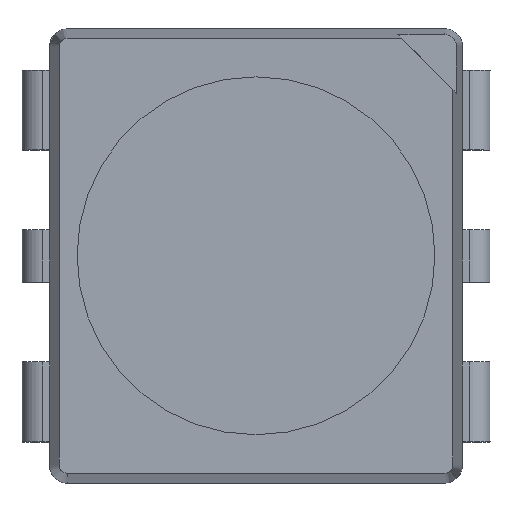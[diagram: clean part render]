
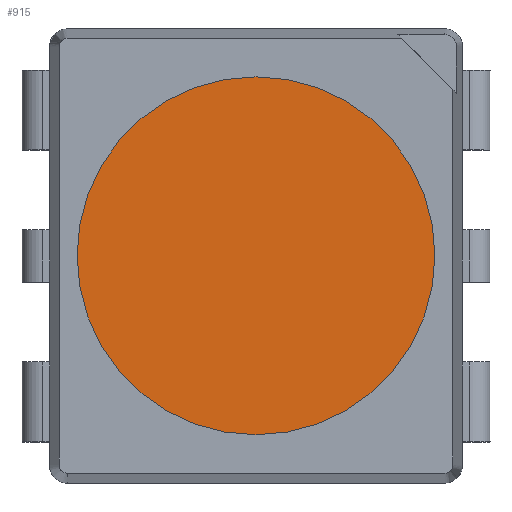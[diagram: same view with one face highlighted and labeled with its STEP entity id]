
A CAD part, top view. The second image highlights one B-rep face of the part: STEP entity #915.
In plain terms, the highlighted planar face has unit normal (0, 0, 1).
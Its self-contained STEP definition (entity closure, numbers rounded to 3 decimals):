
#124 = DIRECTION ( 'NONE',  ( 1., 0., 0. ) ) ;
#268 = DIRECTION ( 'NONE',  ( 1., 0., 0. ) ) ;
#439 = FACE_OUTER_BOUND ( 'NONE', #5419, .T. ) ;
#446 = DIRECTION ( 'NONE',  ( 0., 0., 1. ) ) ;
#490 = PLANE ( 'NONE',  #3310 ) ;
#527 = CARTESIAN_POINT ( 'NONE',  ( 0., 0., 0.8 ) ) ;
#659 = EDGE_CURVE ( 'NONE', #5362, #1012, #2474, .T. ) ;
#708 = CARTESIAN_POINT ( 'NONE',  ( 0., 0., 0.8 ) ) ;
#810 = CARTESIAN_POINT ( 'NONE',  ( -1.3, 0., 0.8 ) ) ;
#884 = CARTESIAN_POINT ( 'NONE',  ( 0., 0., 0.8 ) ) ;
#915 = ADVANCED_FACE ( 'NONE', ( #439 ), #490, .T. ) ;
#1012 = VERTEX_POINT ( 'NONE', #2650 ) ;
#2032 = EDGE_CURVE ( 'NONE', #1012, #5362, #5719, .T. ) ;
#2143 = DIRECTION ( 'NONE',  ( 0., 0., 1. ) ) ;
#2238 = DIRECTION ( 'NONE',  ( 1., 0., 0. ) ) ;
#2474 = CIRCLE ( 'NONE', #2740, 1.3 ) ;
#2650 = CARTESIAN_POINT ( 'NONE',  ( 1.3, 0., 0.8 ) ) ;
#2740 = AXIS2_PLACEMENT_3D ( 'NONE', #708, #2143, #268 ) ;
#3310 = AXIS2_PLACEMENT_3D ( 'NONE', #527, #5400, #124 ) ;
#3626 = ORIENTED_EDGE ( 'NONE', *, *, #2032, .T. ) ;
#4233 = AXIS2_PLACEMENT_3D ( 'NONE', #884, #446, #2238 ) ;
#4851 = ORIENTED_EDGE ( 'NONE', *, *, #659, .T. ) ;
#5362 = VERTEX_POINT ( 'NONE', #810 ) ;
#5400 = DIRECTION ( 'NONE',  ( 0., 0., 1. ) ) ;
#5419 = EDGE_LOOP ( 'NONE', ( #3626, #4851 ) ) ;
#5719 = CIRCLE ( 'NONE', #4233, 1.3 ) ;
